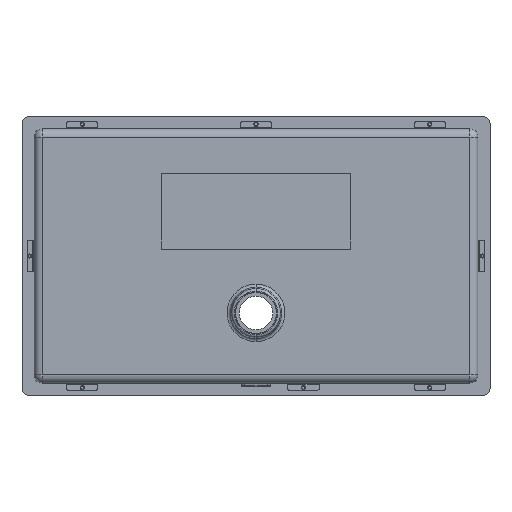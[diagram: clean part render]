
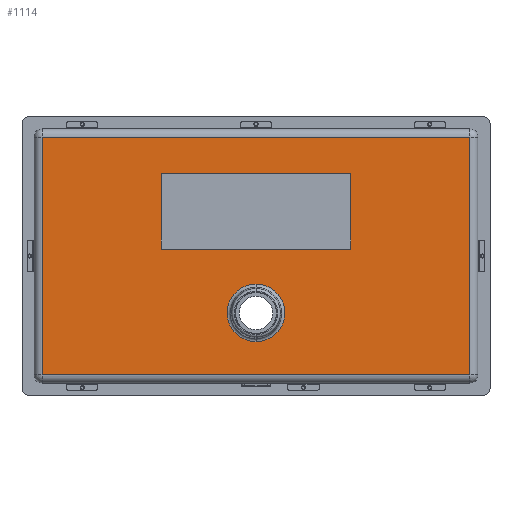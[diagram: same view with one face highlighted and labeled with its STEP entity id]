
A CAD part, front view. The second image highlights one B-rep face of the part: STEP entity #1114.
In plain terms, the highlighted planar face has unit normal (0, -1, 0).
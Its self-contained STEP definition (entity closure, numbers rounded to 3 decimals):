
#34 = DIRECTION ( 'NONE',  ( 0., 0., 1. ) ) ;
#169 = VERTEX_POINT ( 'NONE', #2545 ) ;
#200 = VERTEX_POINT ( 'NONE', #2610 ) ;
#220 = EDGE_CURVE ( 'NONE', #863, #5634, #4192, .T. ) ;
#348 = LINE ( 'NONE', #887, #2029 ) ;
#466 = ORIENTED_EDGE ( 'NONE', *, *, #2227, .F. ) ;
#557 = ORIENTED_EDGE ( 'NONE', *, *, #220, .F. ) ;
#692 = DIRECTION ( 'NONE',  ( 0., -1., 0. ) ) ;
#703 = CARTESIAN_POINT ( 'NONE',  ( 708., -200.9, 0. ) ) ;
#726 = VECTOR ( 'NONE', #34, 1000. ) ;
#863 = VERTEX_POINT ( 'NONE', #4659 ) ;
#887 = CARTESIAN_POINT ( 'NONE',  ( 0., -200.9, 32. ) ) ;
#1031 = LINE ( 'NONE', #3598, #5304 ) ;
#1114 = ADVANCED_FACE ( 'NONE', ( #6548, #3384 ), #5461, .F. ) ;
#1161 = CARTESIAN_POINT ( 'NONE',  ( 32., -200.9, 408. ) ) ;
#1402 = ORIENTED_EDGE ( 'NONE', *, *, #2548, .F. ) ;
#1881 = DIRECTION ( 'NONE',  ( 0., 0., 1. ) ) ;
#1887 = EDGE_CURVE ( 'NONE', #5153, #863, #348, .T. ) ;
#1953 = DIRECTION ( 'NONE',  ( 1., 0., 0. ) ) ;
#2029 = VECTOR ( 'NONE', #5628, 1000. ) ;
#2031 = DIRECTION ( 'NONE',  ( 0., 0., 1. ) ) ;
#2036 = CIRCLE ( 'NONE', #6494, 45.535 ) ;
#2050 = CARTESIAN_POINT ( 'NONE',  ( 370., -200.9, 175.535 ) ) ;
#2173 = CARTESIAN_POINT ( 'NONE',  ( 32., -200.9, 0. ) ) ;
#2216 = ORIENTED_EDGE ( 'NONE', *, *, #3307, .F. ) ;
#2227 = EDGE_CURVE ( 'NONE', #200, #5153, #5376, .T. ) ;
#2290 = CARTESIAN_POINT ( 'NONE',  ( 708., -200.9, 32. ) ) ;
#2541 = CARTESIAN_POINT ( 'NONE',  ( 370., -200.9, 130. ) ) ;
#2545 = CARTESIAN_POINT ( 'NONE',  ( 370., -200.9, 84.465 ) ) ;
#2548 = EDGE_CURVE ( 'NONE', #3755, #169, #2036, .T. ) ;
#2610 = CARTESIAN_POINT ( 'NONE',  ( 708., -200.9, 408. ) ) ;
#2655 = CARTESIAN_POINT ( 'NONE',  ( 370., -200.9, 130. ) ) ;
#2860 = DIRECTION ( 'NONE',  ( 0., 1., 0. ) ) ;
#3097 = EDGE_CURVE ( 'NONE', #5634, #200, #1031, .T. ) ;
#3307 = EDGE_CURVE ( 'NONE', #169, #3755, #5640, .T. ) ;
#3363 = EDGE_LOOP ( 'NONE', ( #4146, #557, #4685, #466 ) ) ;
#3384 = FACE_OUTER_BOUND ( 'NONE', #3363, .T. ) ;
#3598 = CARTESIAN_POINT ( 'NONE',  ( 0., -200.9, 408. ) ) ;
#3659 = AXIS2_PLACEMENT_3D ( 'NONE', #5492, #2860, #1881 ) ;
#3755 = VERTEX_POINT ( 'NONE', #2050 ) ;
#4146 = ORIENTED_EDGE ( 'NONE', *, *, #3097, .F. ) ;
#4192 = LINE ( 'NONE', #2173, #726 ) ;
#4427 = VECTOR ( 'NONE', #4861, 1000. ) ;
#4659 = CARTESIAN_POINT ( 'NONE',  ( 32., -200.9, 32. ) ) ;
#4685 = ORIENTED_EDGE ( 'NONE', *, *, #1887, .F. ) ;
#4742 = DIRECTION ( 'NONE',  ( 0., 0., 1. ) ) ;
#4861 = DIRECTION ( 'NONE',  ( 0., 0., -1. ) ) ;
#5100 = DIRECTION ( 'NONE',  ( 0., -1., 0. ) ) ;
#5153 = VERTEX_POINT ( 'NONE', #2290 ) ;
#5304 = VECTOR ( 'NONE', #1953, 1000. ) ;
#5376 = LINE ( 'NONE', #703, #4427 ) ;
#5461 = PLANE ( 'NONE',  #3659 ) ;
#5492 = CARTESIAN_POINT ( 'NONE',  ( 0., -200.9, 0. ) ) ;
#5628 = DIRECTION ( 'NONE',  ( -1., 0., 0. ) ) ;
#5634 = VERTEX_POINT ( 'NONE', #1161 ) ;
#5640 = CIRCLE ( 'NONE', #6293, 45.535 ) ;
#6293 = AXIS2_PLACEMENT_3D ( 'NONE', #2655, #692, #4742 ) ;
#6420 = EDGE_LOOP ( 'NONE', ( #1402, #2216 ) ) ;
#6494 = AXIS2_PLACEMENT_3D ( 'NONE', #2541, #5100, #2031 ) ;
#6548 = FACE_BOUND ( 'NONE', #6420, .T. ) ;
